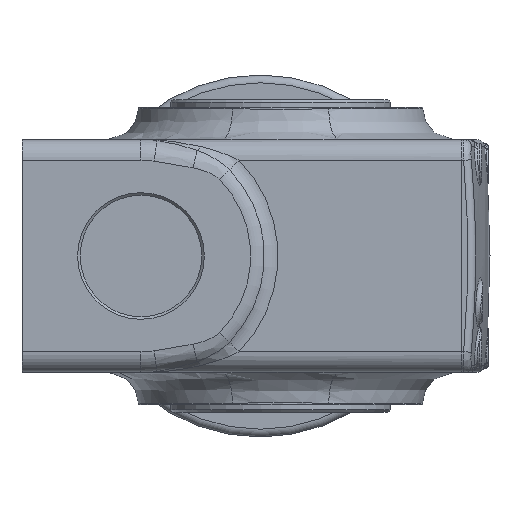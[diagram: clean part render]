
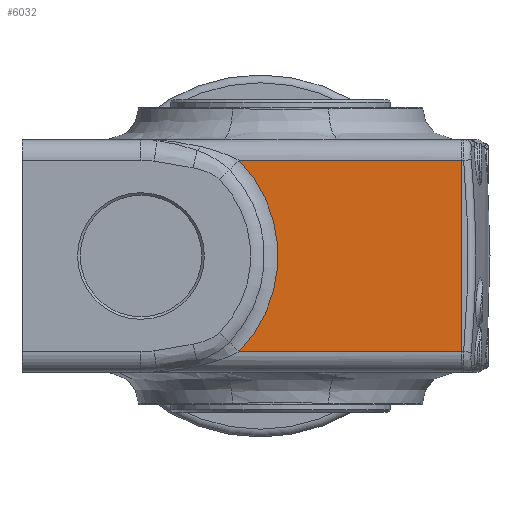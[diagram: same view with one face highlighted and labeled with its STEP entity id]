
A CAD part, left-side view. The second image highlights one B-rep face of the part: STEP entity #6032.
In plain terms, the highlighted planar face has unit normal (-1, 0, 0).
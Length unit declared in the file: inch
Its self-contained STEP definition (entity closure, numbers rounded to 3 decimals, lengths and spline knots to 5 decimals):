
#388=LINE('',#12614,#543);
#396=LINE('',#13579,#551);
#397=LINE('',#13580,#552);
#543=VECTOR('',#7452,3.38711);
#551=VECTOR('',#7540,3.38711);
#552=VECTOR('',#7541,2.91339);
#720=PLANE('',#6532);
#1148=FACE_OUTER_BOUND('',#1611,.T.);
#1611=EDGE_LOOP('',(#4347,#4348,#4349,#4350));
#2203=CIRCLE('',#6529,2.08661);
#2683=VERTEX_POINT('',#12607);
#2684=VERTEX_POINT('',#12613);
#2705=VERTEX_POINT('',#13492);
#2707=VERTEX_POINT('',#13578);
#3287=EDGE_CURVE('',#2683,#2684,#388,.T.);
#3344=EDGE_CURVE('',#2705,#2683,#2203,.T.);
#3349=EDGE_CURVE('',#2707,#2705,#396,.T.);
#3350=EDGE_CURVE('',#2684,#2707,#397,.T.);
#4347=ORIENTED_EDGE('',*,*,#3344,.F.);
#4348=ORIENTED_EDGE('',*,*,#3349,.F.);
#4349=ORIENTED_EDGE('',*,*,#3350,.F.);
#4350=ORIENTED_EDGE('',*,*,#3287,.F.);
#6032=ADVANCED_FACE('',(#1148),#720,.F.);
#6529=AXIS2_PLACEMENT_3D('',#13494,#7532,#7533);
#6532=AXIS2_PLACEMENT_3D('',#13577,#7538,#7539);
#7452=DIRECTION('',(0.,-1.,0.));
#7532=DIRECTION('center_axis',(-1.,0.,0.));
#7533=DIRECTION('ref_axis',(0.,-1.,0.));
#7538=DIRECTION('center_axis',(1.,0.,0.));
#7539=DIRECTION('ref_axis',(0.,0.,-1.));
#7540=DIRECTION('',(0.,1.,0.));
#7541=DIRECTION('',(0.,0.,-1.));
#12607=CARTESIAN_POINT('',(-2.7849,0.35816,2.13026));
#12613=CARTESIAN_POINT('',(-2.7849,-3.02895,2.13026));
#12614=CARTESIAN_POINT('',(-2.7849,-1.35572,2.13026));
#13492=CARTESIAN_POINT('',(-2.7849,0.35816,-0.78312));
#13494=CARTESIAN_POINT('Origin',(-2.7849,1.85215,0.67357));
#13577=CARTESIAN_POINT('Origin',(-2.7849,-3.02895,2.44523));
#13578=CARTESIAN_POINT('',(-2.7849,-3.02895,-0.78312));
#13579=CARTESIAN_POINT('',(-2.7849,-1.35572,-0.78312));
#13580=CARTESIAN_POINT('',(-2.7849,-3.02895,1.5594));
